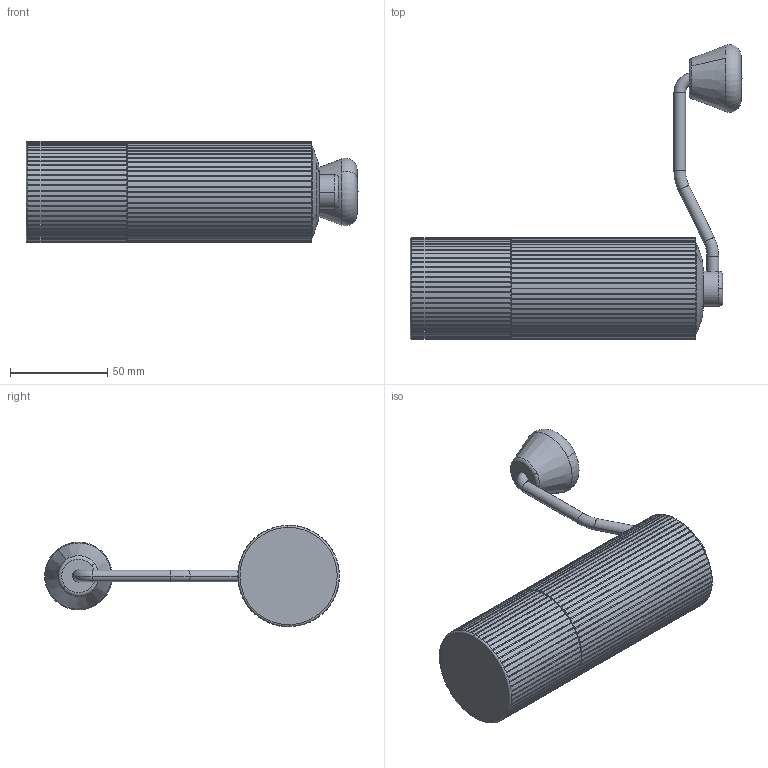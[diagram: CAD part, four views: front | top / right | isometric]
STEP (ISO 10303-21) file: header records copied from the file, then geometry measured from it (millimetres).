
FILE_DESCRIPTION (( 'STEP AP214' ), '1' );
FILE_NAME ('Coffee Grinder.STEP', '2021-03-24T02:17:12', ( '' ), ( '' ), 'SwSTEP 2.0', 'SolidWorks 2020', '' );
FILE_SCHEMA (( 'AUTOMOTIVE_DESIGN' ));
Length unit declared in the file: millimetre
Products named in the file (16): Grinder Locknut.ipt; Handle.ipt; Grinds Cup.ipt; Grinder Lid.ipt; Coffee Grinder.iam; Grinder mill top hopper.ipt; Grinder Handle cap.ipt; Grinder mill rotor.ipt; Grinder body.ipt; Grider lid.iam; JIS B 1521 - 679 9x14x3x0.928.ipt; GrinderShaft.ipt; Grinder mill body.ipt; Grinder mill hopper.ipt; Knob.ipt; Coffee Grinder
Assembly tree (16 placements, depth 4):
  Coffee Grinder
    Coffee Grinder.iam
      Grinder body.ipt
      Grinder mill body.ipt
      Grinder mill rotor.ipt
      Grinder mill hopper.ipt
      Grinder mill top hopper.ipt
      GrinderShaft.ipt
      Grider lid.iam
        Grinder Lid.ipt
        Grinder Handle cap.ipt
      Grinder Locknut.ipt
      Grinds Cup.ipt
      Handle.ipt
      Knob.ipt
      JIS B 1521 - 679 9x14x3x0.928.ipt  x2
Bounding box: 170.66 x 151.49 x 52.2 mm (x, y, z)
Volume: 153469.3 mm3; surface area: 101990.3 mm2
Topology: 43 solids, 45 shells, 1692 faces, 4322 edges, 2666 vertices
Faces by surface type: plane 671, cylinder 578, cone 168, bspline 129, torus 90, sphere 56
Entity records: 69273 total; most frequent: CARTESIAN_POINT 29933, DIRECTION 8153, ORIENTED_EDGE 8140, EDGE_CURVE 4071, AXIS2_PLACEMENT_3D 3144, VERTEX_POINT 2502, LINE 1865, VECTOR 1865
